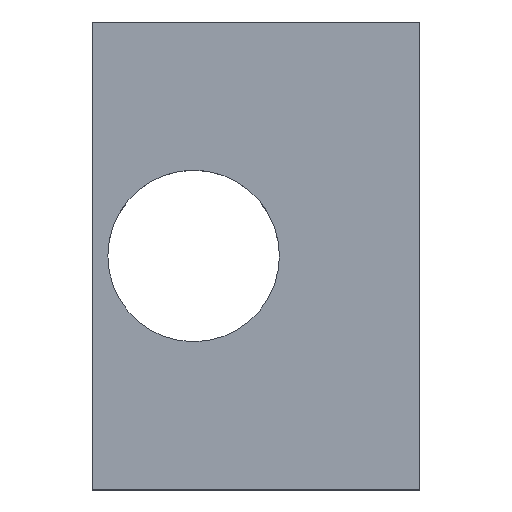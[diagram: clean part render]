
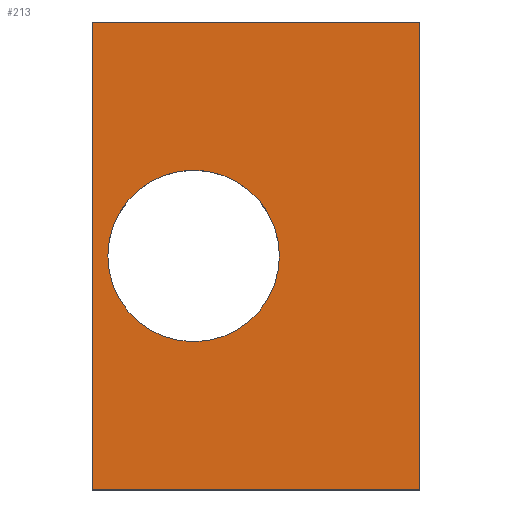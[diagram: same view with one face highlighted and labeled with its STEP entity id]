
A CAD part, top view. The second image highlights one B-rep face of the part: STEP entity #213.
In plain terms, the highlighted planar face has unit normal (0, 0, 1).
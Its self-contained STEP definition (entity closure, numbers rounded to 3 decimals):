
#24 = VERTEX_POINT('',#25);
#25 = CARTESIAN_POINT('',(-9.,-41.,8.58));
#32 = PLANE('',#33);
#33 = AXIS2_PLACEMENT_3D('',#34,#35,#36);
#34 = CARTESIAN_POINT('',(-9.,-41.,7.38));
#35 = DIRECTION('',(1.,0.,0.));
#36 = DIRECTION('',(0.,0.,1.));
#44 = PLANE('',#45);
#45 = AXIS2_PLACEMENT_3D('',#46,#47,#48);
#46 = CARTESIAN_POINT('',(-9.,-41.,7.38));
#47 = DIRECTION('',(0.,1.,0.));
#48 = DIRECTION('',(0.,0.,1.));
#85 = VERTEX_POINT('',#86);
#86 = CARTESIAN_POINT('',(-9.,-35.,8.58));
#100 = PLANE('',#101);
#101 = AXIS2_PLACEMENT_3D('',#102,#103,#104);
#102 = CARTESIAN_POINT('',(-9.,-35.,7.38));
#103 = DIRECTION('',(0.,1.,0.));
#104 = DIRECTION('',(0.,0.,1.));
#112 = EDGE_CURVE('',#24,#85,#113,.T.);
#113 = SURFACE_CURVE('',#114,(#118,#125),.PCURVE_S1.);
#114 = LINE('',#115,#116);
#115 = CARTESIAN_POINT('',(-9.,-41.,8.58));
#116 = VECTOR('',#117,1.);
#117 = DIRECTION('',(0.,1.,0.));
#118 = PCURVE('',#32,#119);
#119 = DEFINITIONAL_REPRESENTATION('',(#120),#124);
#120 = LINE('',#121,#122);
#121 = CARTESIAN_POINT('',(1.2,0.));
#122 = VECTOR('',#123,1.);
#123 = DIRECTION('',(0.,-1.));
#124 = ( GEOMETRIC_REPRESENTATION_CONTEXT(2) 
PARAMETRIC_REPRESENTATION_CONTEXT() REPRESENTATION_CONTEXT('2D SPACE',''
  ) );
#125 = PCURVE('',#126,#131);
#126 = PLANE('',#127);
#127 = AXIS2_PLACEMENT_3D('',#128,#129,#130);
#128 = CARTESIAN_POINT('',(-9.,-41.,8.58));
#129 = DIRECTION('',(0.,0.,1.));
#130 = DIRECTION('',(1.,0.,0.));
#131 = DEFINITIONAL_REPRESENTATION('',(#132),#136);
#132 = LINE('',#133,#134);
#133 = CARTESIAN_POINT('',(0.,0.));
#134 = VECTOR('',#135,1.);
#135 = DIRECTION('',(0.,1.));
#136 = ( GEOMETRIC_REPRESENTATION_CONTEXT(2) 
PARAMETRIC_REPRESENTATION_CONTEXT() REPRESENTATION_CONTEXT('2D SPACE',''
  ) );
#165 = EDGE_CURVE('',#24,#166,#168,.T.);
#166 = VERTEX_POINT('',#167);
#167 = CARTESIAN_POINT('',(-4.8,-41.,8.58));
#168 = SURFACE_CURVE('',#169,(#173,#180),.PCURVE_S1.);
#169 = LINE('',#170,#171);
#170 = CARTESIAN_POINT('',(-9.,-41.,8.58));
#171 = VECTOR('',#172,1.);
#172 = DIRECTION('',(1.,0.,0.));
#173 = PCURVE('',#44,#174);
#174 = DEFINITIONAL_REPRESENTATION('',(#175),#179);
#175 = LINE('',#176,#177);
#176 = CARTESIAN_POINT('',(1.2,0.));
#177 = VECTOR('',#178,1.);
#178 = DIRECTION('',(0.,1.));
#179 = ( GEOMETRIC_REPRESENTATION_CONTEXT(2) 
PARAMETRIC_REPRESENTATION_CONTEXT() REPRESENTATION_CONTEXT('2D SPACE',''
  ) );
#180 = PCURVE('',#126,#181);
#181 = DEFINITIONAL_REPRESENTATION('',(#182),#186);
#182 = LINE('',#183,#184);
#183 = CARTESIAN_POINT('',(0.,0.));
#184 = VECTOR('',#185,1.);
#185 = DIRECTION('',(1.,0.));
#186 = ( GEOMETRIC_REPRESENTATION_CONTEXT(2) 
PARAMETRIC_REPRESENTATION_CONTEXT() REPRESENTATION_CONTEXT('2D SPACE',''
  ) );
#202 = PLANE('',#203);
#203 = AXIS2_PLACEMENT_3D('',#204,#205,#206);
#204 = CARTESIAN_POINT('',(-4.8,-41.,7.38));
#205 = DIRECTION('',(1.,0.,0.));
#206 = DIRECTION('',(0.,0.,1.));
#213 = ADVANCED_FACE('',(#214,#262),#126,.T.);
#214 = FACE_BOUND('',#215,.T.);
#215 = EDGE_LOOP('',(#216,#217,#218,#241));
#216 = ORIENTED_EDGE('',*,*,#112,.F.);
#217 = ORIENTED_EDGE('',*,*,#165,.T.);
#218 = ORIENTED_EDGE('',*,*,#219,.T.);
#219 = EDGE_CURVE('',#166,#220,#222,.T.);
#220 = VERTEX_POINT('',#221);
#221 = CARTESIAN_POINT('',(-4.8,-35.,8.58));
#222 = SURFACE_CURVE('',#223,(#227,#234),.PCURVE_S1.);
#223 = LINE('',#224,#225);
#224 = CARTESIAN_POINT('',(-4.8,-41.,8.58));
#225 = VECTOR('',#226,1.);
#226 = DIRECTION('',(0.,1.,0.));
#227 = PCURVE('',#126,#228);
#228 = DEFINITIONAL_REPRESENTATION('',(#229),#233);
#229 = LINE('',#230,#231);
#230 = CARTESIAN_POINT('',(4.2,0.));
#231 = VECTOR('',#232,1.);
#232 = DIRECTION('',(0.,1.));
#233 = ( GEOMETRIC_REPRESENTATION_CONTEXT(2) 
PARAMETRIC_REPRESENTATION_CONTEXT() REPRESENTATION_CONTEXT('2D SPACE',''
  ) );
#234 = PCURVE('',#202,#235);
#235 = DEFINITIONAL_REPRESENTATION('',(#236),#240);
#236 = LINE('',#237,#238);
#237 = CARTESIAN_POINT('',(1.2,0.));
#238 = VECTOR('',#239,1.);
#239 = DIRECTION('',(0.,-1.));
#240 = ( GEOMETRIC_REPRESENTATION_CONTEXT(2) 
PARAMETRIC_REPRESENTATION_CONTEXT() REPRESENTATION_CONTEXT('2D SPACE',''
  ) );
#241 = ORIENTED_EDGE('',*,*,#242,.F.);
#242 = EDGE_CURVE('',#85,#220,#243,.T.);
#243 = SURFACE_CURVE('',#244,(#248,#255),.PCURVE_S1.);
#244 = LINE('',#245,#246);
#245 = CARTESIAN_POINT('',(-9.,-35.,8.58));
#246 = VECTOR('',#247,1.);
#247 = DIRECTION('',(1.,0.,0.));
#248 = PCURVE('',#126,#249);
#249 = DEFINITIONAL_REPRESENTATION('',(#250),#254);
#250 = LINE('',#251,#252);
#251 = CARTESIAN_POINT('',(0.,6.));
#252 = VECTOR('',#253,1.);
#253 = DIRECTION('',(1.,0.));
#254 = ( GEOMETRIC_REPRESENTATION_CONTEXT(2) 
PARAMETRIC_REPRESENTATION_CONTEXT() REPRESENTATION_CONTEXT('2D SPACE',''
  ) );
#255 = PCURVE('',#100,#256);
#256 = DEFINITIONAL_REPRESENTATION('',(#257),#261);
#257 = LINE('',#258,#259);
#258 = CARTESIAN_POINT('',(1.2,0.));
#259 = VECTOR('',#260,1.);
#260 = DIRECTION('',(0.,1.));
#261 = ( GEOMETRIC_REPRESENTATION_CONTEXT(2) 
PARAMETRIC_REPRESENTATION_CONTEXT() REPRESENTATION_CONTEXT('2D SPACE',''
  ) );
#262 = FACE_BOUND('',#263,.T.);
#263 = EDGE_LOOP('',(#264));
#264 = ORIENTED_EDGE('',*,*,#265,.F.);
#265 = EDGE_CURVE('',#266,#266,#268,.T.);
#266 = VERTEX_POINT('',#267);
#267 = CARTESIAN_POINT('',(-6.6,-38.,8.58));
#268 = SURFACE_CURVE('',#269,(#274,#281),.PCURVE_S1.);
#269 = CIRCLE('',#270,1.1);
#270 = AXIS2_PLACEMENT_3D('',#271,#272,#273);
#271 = CARTESIAN_POINT('',(-7.7,-38.,8.58));
#272 = DIRECTION('',(0.,0.,1.));
#273 = DIRECTION('',(1.,0.,-0.));
#274 = PCURVE('',#126,#275);
#275 = DEFINITIONAL_REPRESENTATION('',(#276),#280);
#276 = CIRCLE('',#277,1.1);
#277 = AXIS2_PLACEMENT_2D('',#278,#279);
#278 = CARTESIAN_POINT('',(1.3,3.));
#279 = DIRECTION('',(1.,0.));
#280 = ( GEOMETRIC_REPRESENTATION_CONTEXT(2) 
PARAMETRIC_REPRESENTATION_CONTEXT() REPRESENTATION_CONTEXT('2D SPACE',''
  ) );
#281 = PCURVE('',#282,#287);
#282 = CYLINDRICAL_SURFACE('',#283,1.1);
#283 = AXIS2_PLACEMENT_3D('',#284,#285,#286);
#284 = CARTESIAN_POINT('',(-7.7,-38.,7.37));
#285 = DIRECTION('',(0.,0.,1.));
#286 = DIRECTION('',(1.,0.,-0.));
#287 = DEFINITIONAL_REPRESENTATION('',(#288),#292);
#288 = LINE('',#289,#290);
#289 = CARTESIAN_POINT('',(0.,1.21));
#290 = VECTOR('',#291,1.);
#291 = DIRECTION('',(1.,0.));
#292 = ( GEOMETRIC_REPRESENTATION_CONTEXT(2) 
PARAMETRIC_REPRESENTATION_CONTEXT() REPRESENTATION_CONTEXT('2D SPACE',''
  ) );
